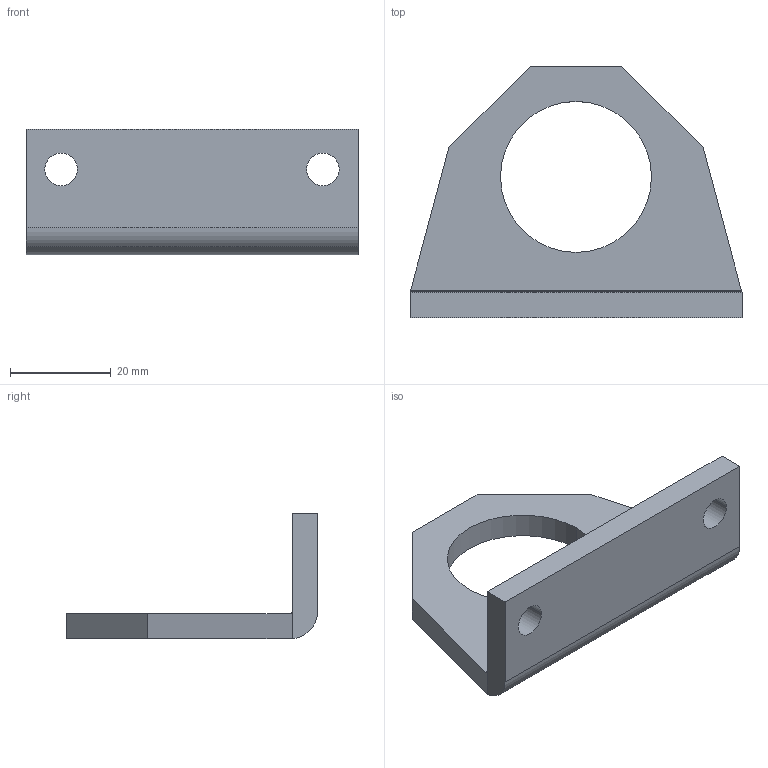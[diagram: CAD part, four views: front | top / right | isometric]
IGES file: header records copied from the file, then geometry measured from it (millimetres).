
Global section: file name: No Iges File Name specified; native system: AutoDesk Inventor R6.0; preprocessor: AutoDesk Inventor Iges Exporter R6.0; author: No Author specified; organization: No Organization specified; date: 20030408.081552; units: millimetre
Bounding box: 66 x 50 x 25 mm (x, y, z)
Volume: 15140.2 mm3; surface area: 7916.8 mm2
Topology: 1 solids, 1 shells, 22 faces, 58 edges, 38 vertices
Faces by surface type: plane 12, revolution 4, bspline 4, cylinder 2
